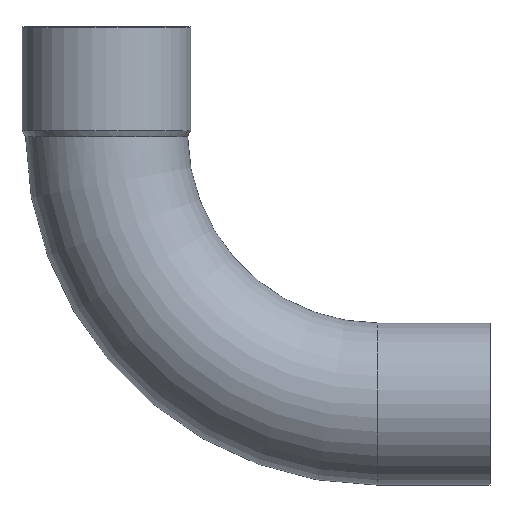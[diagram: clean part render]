
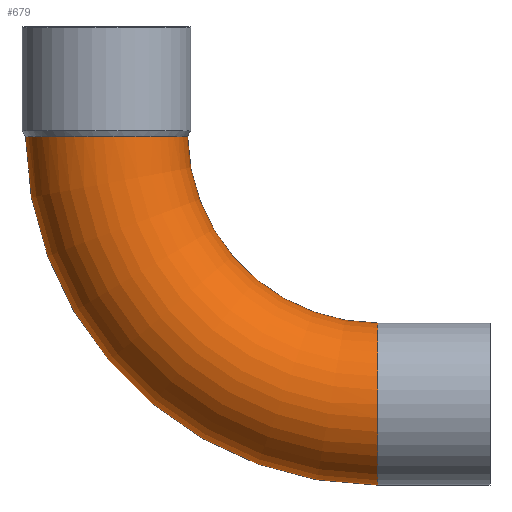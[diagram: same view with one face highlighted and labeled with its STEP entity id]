
A CAD part, front view. The second image highlights one B-rep face of the part: STEP entity #679.
In plain terms, the highlighted toroidal (fillet/blend) face has major radius 87 mm and minor radius 26 mm.
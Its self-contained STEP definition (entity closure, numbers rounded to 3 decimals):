
#49=CARTESIAN_POINT('',(-90.958,0.,-1.211));
#50=VERTEX_POINT('',#49);
#51=CARTESIAN_POINT('',(22.035,0.,-113.));
#52=VERTEX_POINT('',#51);
#53=CARTESIAN_POINT('',(22.035,0.,0.0));
#54=DIRECTION('',(0.0,-1.0,0.0));
#55=DIRECTION('',(0.0,0.0,-1.0));
#56=AXIS2_PLACEMENT_3D('',#53,#54,#55);
#57=CIRCLE('',#56,113.);
#58=EDGE_CURVE('',#50,#52,#57,.T.);
#60=CARTESIAN_POINT('',(-38.954,0.,-1.18));
#61=VERTEX_POINT('',#60);
#85=CARTESIAN_POINT('',(22.035,0.,-61.));
#86=VERTEX_POINT('',#85);
#87=CARTESIAN_POINT('',(22.035,0.,0.0));
#88=DIRECTION('',(0.0,1.0,0.0));
#89=DIRECTION('',(0.0,0.0,-1.0));
#90=AXIS2_PLACEMENT_3D('',#87,#88,#89);
#91=CIRCLE('',#90,61.);
#92=EDGE_CURVE('',#86,#61,#91,.T.);
#210=CARTESIAN_POINT('',(-38.954,0.,-1.18));
#211=CARTESIAN_POINT('',(-38.954,-0.227,-1.18));
#212=CARTESIAN_POINT('',(-38.956,-0.454,-1.18));
#213=CARTESIAN_POINT('',(-39.051,-4.066,-1.18));
#214=CARTESIAN_POINT('',(-39.8,-7.4,-1.181));
#215=CARTESIAN_POINT('',(-42.534,-13.595,-1.184));
#216=CARTESIAN_POINT('',(-44.494,-16.396,-1.186));
#217=CARTESIAN_POINT('',(-49.376,-21.089,-1.19));
#218=CARTESIAN_POINT('',(-52.252,-22.937,-1.192));
#219=CARTESIAN_POINT('',(-58.55,-25.425,-1.196));
#220=CARTESIAN_POINT('',(-61.913,-26.042,-1.198));
#221=CARTESIAN_POINT('',(-68.684,-25.953,-1.202));
#222=CARTESIAN_POINT('',(-72.029,-25.248,-1.204));
#223=CARTESIAN_POINT('',(-78.259,-22.595,-1.206));
#224=CARTESIAN_POINT('',(-81.085,-20.673,-1.208));
#225=CARTESIAN_POINT('',(-85.842,-15.853,-1.209));
#226=CARTESIAN_POINT('',(-87.727,-13.002,-1.21));
#227=CARTESIAN_POINT('',(-90.297,-6.738,-1.211));
#228=CARTESIAN_POINT('',(-90.958,-3.385,-1.211));
#229=CARTESIAN_POINT('',(-90.958,0.,-1.211));
#230=B_SPLINE_CURVE_WITH_KNOTS('',3,(#210,#211,#212,#213,#214,#215,#216,#217,#218,#219,#220,#221,#222,#223,#224,#225,#226,#227,#228,#229),.UNSPECIFIED.,.F.,.U.,(4,2,2,2,2,2,2,2,2,4),(-8.194,-8.126,-7.11,-6.094,-5.079,-4.063,-3.047,-2.031,-1.016,0.0),.UNSPECIFIED.);
#231=EDGE_CURVE('',#61,#50,#230,.T.);
#535=CARTESIAN_POINT('',(22.035,0.,-87.));
#536=DIRECTION('',(-1.0,0.0,0.0));
#537=DIRECTION('',(0.0,0.0,-1.0));
#538=AXIS2_PLACEMENT_3D('',#535,#536,#537);
#539=CIRCLE('',#538,26.0);
#540=EDGE_CURVE('',#52,#86,#539,.T.);
#668=CARTESIAN_POINT('',(22.035,0.,0.0));
#669=DIRECTION('',(0.0,-1.0,0.0));
#670=DIRECTION('',(0.0,0.0,-1.0));
#671=AXIS2_PLACEMENT_3D('',#668,#669,#670);
#672=TOROIDAL_SURFACE('',#671,87.,26.0);
#673=ORIENTED_EDGE('',*,*,#58,.T.);
#674=ORIENTED_EDGE('',*,*,#540,.T.);
#675=ORIENTED_EDGE('',*,*,#92,.T.);
#676=ORIENTED_EDGE('',*,*,#231,.T.);
#677=EDGE_LOOP('',(#673,#674,#675,#676));
#678=FACE_OUTER_BOUND('',#677,.T.);
#679=ADVANCED_FACE('',(#678),#672,.T.);
